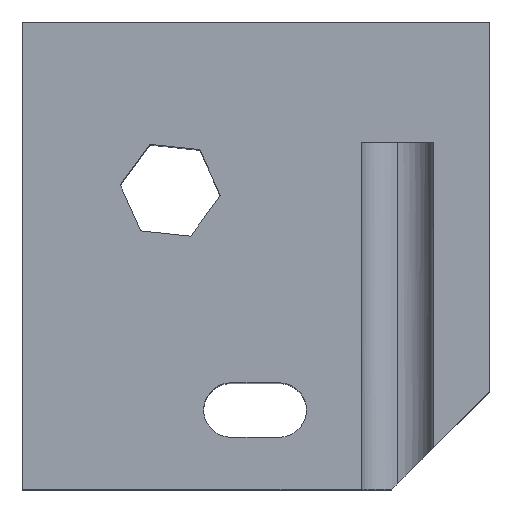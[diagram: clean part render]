
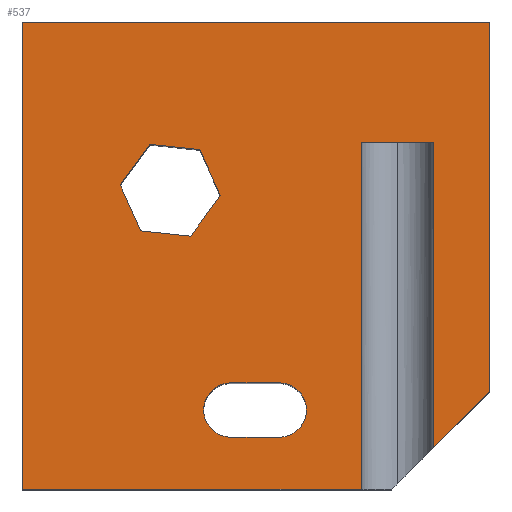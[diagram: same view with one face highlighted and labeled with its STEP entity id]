
A CAD part, top view. The second image highlights one B-rep face of the part: STEP entity #537.
In plain terms, the highlighted planar face has unit normal (0, 0, 1).
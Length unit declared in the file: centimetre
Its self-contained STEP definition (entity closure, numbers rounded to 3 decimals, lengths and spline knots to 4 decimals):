
#18 = CARTESIAN_POINT ( 'NONE',  ( 360.2483, 541.6729, 1000. ) ) ;
#33 = CARTESIAN_POINT ( 'NONE',  ( 878.9778, 88.8958, 1000. ) ) ;
#41 = VECTOR ( 'NONE', #87, 100. ) ;
#49 = LINE ( 'NONE', #1199, #868 ) ;
#55 = ORIENTED_EDGE ( 'NONE', *, *, #806, .T. ) ;
#66 = VERTEX_POINT ( 'NONE', #248 ) ;
#76 = LINE ( 'NONE', #694, #622 ) ;
#77 = VERTEX_POINT ( 'NONE', #1080 ) ;
#79 = CARTESIAN_POINT ( 'NONE',  ( 272.8866, 738.3675, 1000. ) ) ;
#87 = DIRECTION ( 'NONE',  ( 0.994, -0.105, 0. ) ) ;
#92 = CARTESIAN_POINT ( 'NONE',  ( 1000., 1000., 1000. ) ) ;
#99 = CIRCLE ( 'NONE', #1353, 58.293 ) ;
#108 = EDGE_CURVE ( 'NONE', #643, #1125, #994, .T. ) ;
#137 = EDGE_CURVE ( 'NONE', #77, #805, #277, .T. ) ;
#141 = VECTOR ( 'NONE', #704, 100. ) ;
#153 = DIRECTION ( 'NONE',  ( -1., 0., 0. ) ) ;
#163 = VERTEX_POINT ( 'NONE', #494 ) ;
#169 = DIRECTION ( 'NONE',  ( 0.707, 0.707, 0. ) ) ;
#176 = EDGE_CURVE ( 'NONE', #1005, #1011, #906, .T. ) ;
#177 = CARTESIAN_POINT ( 'NONE',  ( 725.1307, 742.9198, 1000. ) ) ;
#180 = VERTEX_POINT ( 'NONE', #930 ) ;
#192 = EDGE_CURVE ( 'NONE', #846, #66, #305, .T. ) ;
#198 = CIRCLE ( 'NONE', #924, 58.293 ) ;
#199 = CARTESIAN_POINT ( 'NONE',  ( 379.8983, 727.0226, 1000. ) ) ;
#201 = ORIENTED_EDGE ( 'NONE', *, *, #1251, .T. ) ;
#205 = VECTOR ( 'NONE', #411, 100. ) ;
#209 = ORIENTED_EDGE ( 'NONE', *, *, #673, .T. ) ;
#239 = CARTESIAN_POINT ( 'NONE',  ( 446.2511, 169.6229, 1000. ) ) ;
#248 = CARTESIAN_POINT ( 'NONE',  ( 387.9581, 169.6229, 1000. ) ) ;
#251 = LINE ( 'NONE', #271, #663 ) ;
#252 = VERTEX_POINT ( 'NONE', #1322 ) ;
#271 = CARTESIAN_POINT ( 'NONE',  ( 423.5792, 628.6753, 1000. ) ) ;
#272 = CARTESIAN_POINT ( 'NONE',  ( 0., 0., 1000. ) ) ;
#277 = LINE ( 'NONE', #79, #41 ) ;
#279 = LINE ( 'NONE', #700, #1152 ) ;
#284 = ORIENTED_EDGE ( 'NONE', *, *, #294, .T. ) ;
#294 = EDGE_CURVE ( 'NONE', #1005, #963, #1354, .T. ) ;
#305 = CIRCLE ( 'NONE', #1137, 58.293 ) ;
#308 = EDGE_CURVE ( 'NONE', #1011, #907, #1179, .T. ) ;
#358 = DIRECTION ( 'NONE',  ( 1., 0., 0. ) ) ;
#369 = DIRECTION ( 'NONE',  ( -0.589, -0.808, 0. ) ) ;
#370 = CARTESIAN_POINT ( 'NONE',  ( 549.767, 227.9159, 1000. ) ) ;
#378 = PLANE ( 'NONE',  #775 ) ;
#387 = CARTESIAN_POINT ( 'NONE',  ( 446.2511, 169.6229, 1000. ) ) ;
#394 = ORIENTED_EDGE ( 'NONE', *, *, #466, .T. ) ;
#411 = DIRECTION ( 'NONE',  ( 0., -1., 0. ) ) ;
#418 = CARTESIAN_POINT ( 'NONE',  ( 1000., 209.918, 1000. ) ) ;
#425 = DIRECTION ( 'NONE',  ( 0., 0., -1. ) ) ;
#437 = ORIENTED_EDGE ( 'NONE', *, *, #176, .F. ) ;
#451 = CARTESIAN_POINT ( 'NONE',  ( 878.9778, 742.9198, 1000. ) ) ;
#462 = ORIENTED_EDGE ( 'NONE', *, *, #108, .T. ) ;
#466 = EDGE_CURVE ( 'NONE', #963, #643, #49, .T. ) ;
#470 = EDGE_CURVE ( 'NONE', #163, #907, #701, .T. ) ;
#478 = CARTESIAN_POINT ( 'NONE',  ( 0., 1000., 1000. ) ) ;
#494 = CARTESIAN_POINT ( 'NONE',  ( 0., 0., 1000. ) ) ;
#506 = LINE ( 'NONE', #1235, #848 ) ;
#509 = CARTESIAN_POINT ( 'NONE',  ( 0., 1000., 1000. ) ) ;
#511 = CARTESIAN_POINT ( 'NONE',  ( 0., 742.9198, 1000. ) ) ;
#515 = EDGE_CURVE ( 'NONE', #536, #1298, #99, .T. ) ;
#523 = LINE ( 'NONE', #509, #745 ) ;
#536 = VERTEX_POINT ( 'NONE', #370 ) ;
#537 = ADVANCED_FACE ( 'NONE', ( #1211, #1319, #903 ), #378, .T. ) ;
#538 = CARTESIAN_POINT ( 'NONE',  ( 549.767, 111.3299, 1000. ) ) ;
#557 = CARTESIAN_POINT ( 'NONE',  ( 878.9778, 742.9198, 1000. ) ) ;
#572 = DIRECTION ( 'NONE',  ( -0.406, 0.914, 0. ) ) ;
#581 = DIRECTION ( 'NONE',  ( 0., 0., -1. ) ) ;
#597 = ORIENTED_EDGE ( 'NONE', *, *, #1135, .T. ) ;
#598 = DIRECTION ( 'NONE',  ( -0.994, 0.105, 0. ) ) ;
#612 = ORIENTED_EDGE ( 'NONE', *, *, #676, .T. ) ;
#616 = DIRECTION ( 'NONE',  ( 0.406, -0.914, 0. ) ) ;
#622 = VECTOR ( 'NONE', #901, 100. ) ;
#641 = VERTEX_POINT ( 'NONE', #1269 ) ;
#643 = VERTEX_POINT ( 'NONE', #418 ) ;
#644 = VECTOR ( 'NONE', #833, 100. ) ;
#649 = ORIENTED_EDGE ( 'NONE', *, *, #721, .T. ) ;
#663 = VECTOR ( 'NONE', #369, 100. ) ;
#671 = ORIENTED_EDGE ( 'NONE', *, *, #192, .T. ) ;
#672 = DIRECTION ( 'NONE',  ( 1., 0., 0. ) ) ;
#673 = EDGE_CURVE ( 'NONE', #180, #252, #884, .T. ) ;
#676 = EDGE_CURVE ( 'NONE', #641, #1303, #251, .T. ) ;
#688 = DIRECTION ( 'NONE',  ( 1., 0., 0. ) ) ;
#694 = CARTESIAN_POINT ( 'NONE',  ( 549.767, 227.9159, 1000. ) ) ;
#695 = DIRECTION ( 'NONE',  ( 1., 0., 0. ) ) ;
#700 = CARTESIAN_POINT ( 'NONE',  ( 360.2483, 541.6729, 1000. ) ) ;
#701 = LINE ( 'NONE', #879, #1351 ) ;
#702 = VECTOR ( 'NONE', #153, 100. ) ;
#704 = DIRECTION ( 'NONE',  ( 0.589, 0.808, 0. ) ) ;
#721 = EDGE_CURVE ( 'NONE', #1298, #846, #506, .T. ) ;
#738 = EDGE_LOOP ( 'NONE', ( #671, #201, #836, #1054, #649 ) ) ;
#745 = VECTOR ( 'NONE', #842, 100. ) ;
#756 = CARTESIAN_POINT ( 'NONE',  ( 1000., 1000., 1000. ) ) ;
#758 = ORIENTED_EDGE ( 'NONE', *, *, #1035, .T. ) ;
#772 = ORIENTED_EDGE ( 'NONE', *, *, #308, .F. ) ;
#775 = AXIS2_PLACEMENT_3D ( 'NONE', #272, #1325, #695 ) ;
#776 = EDGE_CURVE ( 'NONE', #1246, #536, #76, .T. ) ;
#805 = VERTEX_POINT ( 'NONE', #1138 ) ;
#806 = EDGE_CURVE ( 'NONE', #1303, #180, #279, .T. ) ;
#810 = LINE ( 'NONE', #199, #841 ) ;
#812 = EDGE_LOOP ( 'NONE', ( #209, #758, #970, #1272, #612, #55 ) ) ;
#814 = DIRECTION ( 'NONE',  ( -1., 0., 0. ) ) ;
#833 = DIRECTION ( 'NONE',  ( 0., -1., 0. ) ) ;
#836 = ORIENTED_EDGE ( 'NONE', *, *, #776, .T. ) ;
#841 = VECTOR ( 'NONE', #616, 100. ) ;
#842 = DIRECTION ( 'NONE',  ( 0., -1., 0. ) ) ;
#846 = VERTEX_POINT ( 'NONE', #1359 ) ;
#848 = VECTOR ( 'NONE', #814, 100. ) ;
#855 = CARTESIAN_POINT ( 'NONE',  ( 0., 1000., 1000. ) ) ;
#868 = VECTOR ( 'NONE', #169, 100. ) ;
#870 = DIRECTION ( 'NONE',  ( 0., 1., 0. ) ) ;
#879 = CARTESIAN_POINT ( 'NONE',  ( 0., 0., 1000. ) ) ;
#884 = LINE ( 'NONE', #972, #1079 ) ;
#892 = EDGE_LOOP ( 'NONE', ( #772, #437, #284, #394, #462, #951, #597, #1027 ) ) ;
#901 = DIRECTION ( 'NONE',  ( 1., 0., 0. ) ) ;
#903 = FACE_BOUND ( 'NONE', #812, .T. ) ;
#906 = LINE ( 'NONE', #511, #1336 ) ;
#907 = VERTEX_POINT ( 'NONE', #1042 ) ;
#916 = VECTOR ( 'NONE', #870, 100. ) ;
#924 = AXIS2_PLACEMENT_3D ( 'NONE', #239, #425, #1071 ) ;
#930 = CARTESIAN_POINT ( 'NONE',  ( 253.2366, 553.0178, 1000. ) ) ;
#951 = ORIENTED_EDGE ( 'NONE', *, *, #1015, .T. ) ;
#963 = VERTEX_POINT ( 'NONE', #33 ) ;
#970 = ORIENTED_EDGE ( 'NONE', *, *, #137, .T. ) ;
#972 = CARTESIAN_POINT ( 'NONE',  ( 253.2366, 553.0178, 1000. ) ) ;
#994 = LINE ( 'NONE', #756, #916 ) ;
#1005 = VERTEX_POINT ( 'NONE', #557 ) ;
#1011 = VERTEX_POINT ( 'NONE', #177 ) ;
#1015 = EDGE_CURVE ( 'NONE', #1125, #1216, #1081, .T. ) ;
#1026 = DIRECTION ( 'NONE',  ( -1., 0., 0. ) ) ;
#1027 = ORIENTED_EDGE ( 'NONE', *, *, #470, .T. ) ;
#1035 = EDGE_CURVE ( 'NONE', #252, #77, #1225, .T. ) ;
#1040 = CARTESIAN_POINT ( 'NONE',  ( 725.1307, 742.9198, 1000. ) ) ;
#1042 = CARTESIAN_POINT ( 'NONE',  ( 725.1307, 0., 1000. ) ) ;
#1054 = ORIENTED_EDGE ( 'NONE', *, *, #515, .T. ) ;
#1071 = DIRECTION ( 'NONE',  ( 1., 0., 0. ) ) ;
#1079 = VECTOR ( 'NONE', #572, 100. ) ;
#1080 = CARTESIAN_POINT ( 'NONE',  ( 272.8866, 738.3675, 1000. ) ) ;
#1081 = LINE ( 'NONE', #478, #702 ) ;
#1084 = CARTESIAN_POINT ( 'NONE',  ( 446.2511, 227.9159, 1000. ) ) ;
#1118 = CARTESIAN_POINT ( 'NONE',  ( 549.767, 169.6229, 1000. ) ) ;
#1120 = CARTESIAN_POINT ( 'NONE',  ( 209.5558, 651.3651, 1000. ) ) ;
#1125 = VERTEX_POINT ( 'NONE', #92 ) ;
#1135 = EDGE_CURVE ( 'NONE', #1216, #163, #523, .T. ) ;
#1137 = AXIS2_PLACEMENT_3D ( 'NONE', #387, #581, #688 ) ;
#1138 = CARTESIAN_POINT ( 'NONE',  ( 379.8983, 727.0226, 1000. ) ) ;
#1152 = VECTOR ( 'NONE', #598, 100. ) ;
#1179 = LINE ( 'NONE', #1040, #205 ) ;
#1199 = CARTESIAN_POINT ( 'NONE',  ( 395.041, -395.041, 1000. ) ) ;
#1207 = EDGE_CURVE ( 'NONE', #805, #641, #810, .T. ) ;
#1211 = FACE_BOUND ( 'NONE', #738, .T. ) ;
#1216 = VERTEX_POINT ( 'NONE', #855 ) ;
#1225 = LINE ( 'NONE', #1120, #141 ) ;
#1235 = CARTESIAN_POINT ( 'NONE',  ( 446.2511, 111.3299, 1000. ) ) ;
#1246 = VERTEX_POINT ( 'NONE', #1084 ) ;
#1251 = EDGE_CURVE ( 'NONE', #66, #1246, #198, .T. ) ;
#1269 = CARTESIAN_POINT ( 'NONE',  ( 423.5792, 628.6753, 1000. ) ) ;
#1272 = ORIENTED_EDGE ( 'NONE', *, *, #1207, .T. ) ;
#1298 = VERTEX_POINT ( 'NONE', #538 ) ;
#1300 = DIRECTION ( 'NONE',  ( 0., 0., -1. ) ) ;
#1303 = VERTEX_POINT ( 'NONE', #18 ) ;
#1319 = FACE_OUTER_BOUND ( 'NONE', #892, .T. ) ;
#1322 = CARTESIAN_POINT ( 'NONE',  ( 209.5558, 651.3651, 1000. ) ) ;
#1325 = DIRECTION ( 'NONE',  ( 0., 0., 1. ) ) ;
#1336 = VECTOR ( 'NONE', #1026, 100. ) ;
#1351 = VECTOR ( 'NONE', #672, 100. ) ;
#1353 = AXIS2_PLACEMENT_3D ( 'NONE', #1118, #1300, #358 ) ;
#1354 = LINE ( 'NONE', #451, #644 ) ;
#1359 = CARTESIAN_POINT ( 'NONE',  ( 446.2511, 111.3299, 1000. ) ) ;
